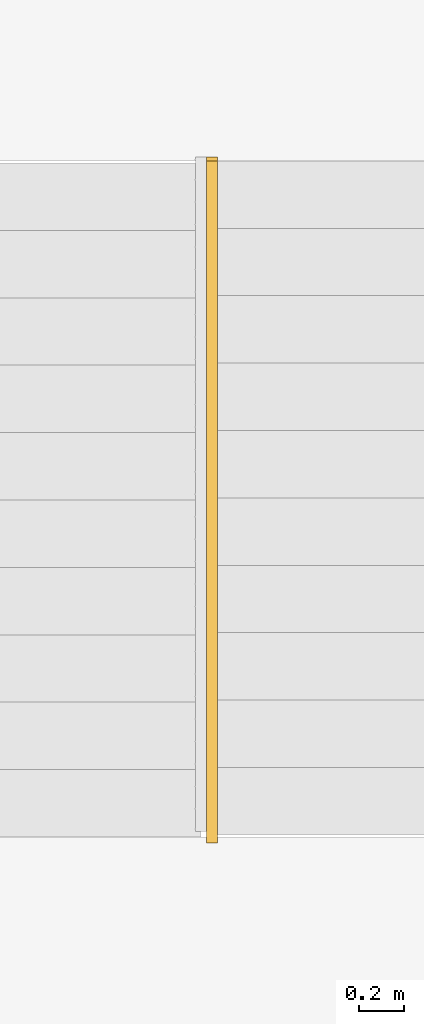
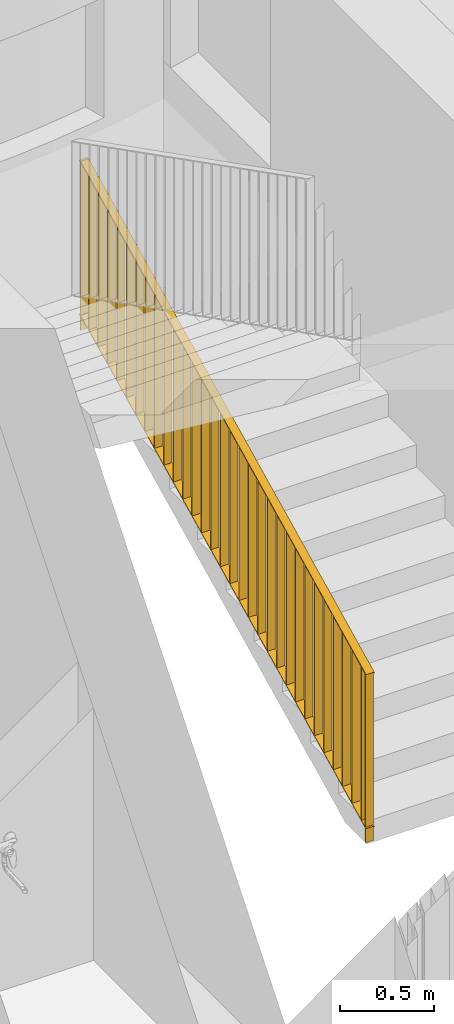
# One storey, part 19 of 48: 1 railing, 1 element without a shape of its own.
"""IFC2X3 building model written with IfcOpenShell, lengths in millimetres."""

from ifc_helpers import new_model, entity, si_unit, converted_unit, derived_unit, direction, frame, origin, place, context, subcontext, project, spatial, faceted_brep, material, element, aggregate, save


model = new_model("IFC2X3")

# Units and contexts
model_context = context("Model", 3, precision=0.01, world=origin(), true_north=direction((6.12303176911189e-17, 1.0)))
body_context = subcontext(model_context, "Body", "Model", "MODEL_VIEW")
ifc_project = project(units=[si_unit("LENGTHUNIT", "METRE", prefix="MILLI"), si_unit("AREAUNIT", "SQUARE_METRE"), si_unit("VOLUMEUNIT", "CUBIC_METRE"), converted_unit("PLANEANGLEUNIT", "DEGREE", entity("IfcRatioMeasure", 0.0174532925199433), si_unit("PLANEANGLEUNIT", "RADIAN"), dimensions=[0, 0, 0, 0, 0, 0, 0]), si_unit("MASSUNIT", "GRAM", prefix="KILO"), derived_unit("MASSDENSITYUNIT", [(si_unit("MASSUNIT", "GRAM", prefix="KILO"), 1), (si_unit("LENGTHUNIT", "METRE"), -3)]), si_unit("TIMEUNIT", "SECOND"), si_unit("FREQUENCYUNIT", "HERTZ"), si_unit("THERMODYNAMICTEMPERATUREUNIT", "DEGREE_CELSIUS"), derived_unit("THERMALTRANSMITTANCEUNIT", [(si_unit("MASSUNIT", "GRAM", prefix="KILO"), 1), (si_unit("THERMODYNAMICTEMPERATUREUNIT", "KELVIN"), -1), (si_unit("TIMEUNIT", "SECOND"), -3)]), derived_unit("VOLUMETRICFLOWRATEUNIT", [(si_unit("LENGTHUNIT", "METRE"), 3), (si_unit("TIMEUNIT", "SECOND"), -1)]), si_unit("ELECTRICCURRENTUNIT", "AMPERE"), si_unit("ELECTRICVOLTAGEUNIT", "VOLT"), si_unit("POWERUNIT", "WATT"), si_unit("FORCEUNIT", "NEWTON", prefix="KILO"), si_unit("ILLUMINANCEUNIT", "LUX"), si_unit("LUMINOUSFLUXUNIT", "LUMEN"), si_unit("LUMINOUSINTENSITYUNIT", "CANDELA"), derived_unit("USERDEFINED", [(si_unit("MASSUNIT", "GRAM", prefix="KILO"), -1), (si_unit("LENGTHUNIT", "METRE"), -2), (si_unit("TIMEUNIT", "SECOND"), 3), (si_unit("LUMINOUSFLUXUNIT", "LUMEN"), 1)]), derived_unit("LINEARVELOCITYUNIT", [(si_unit("LENGTHUNIT", "METRE"), 1), (si_unit("TIMEUNIT", "SECOND"), -1)]), si_unit("PRESSUREUNIT", "PASCAL"), derived_unit("USERDEFINED", [(si_unit("LENGTHUNIT", "METRE"), -2), (si_unit("MASSUNIT", "GRAM", prefix="KILO"), 1), (si_unit("TIMEUNIT", "SECOND"), -2)]), derived_unit("LINEARFORCEUNIT", [(si_unit("MASSUNIT", "GRAM", prefix="KILO"), 1), (si_unit("LENGTHUNIT", "METRE"), 1), (si_unit("TIMEUNIT", "SECOND"), -2), (si_unit("LENGTHUNIT", "METRE"), -1)]), derived_unit("PLANARFORCEUNIT", [(si_unit("MASSUNIT", "GRAM", prefix="KILO"), 1), (si_unit("LENGTHUNIT", "METRE"), 1), (si_unit("TIMEUNIT", "SECOND"), -2), (si_unit("LENGTHUNIT", "METRE"), -2)])], contexts=[model_context])

# Site, building, storey
site_placement = place(None, origin())
site = spatial("IfcSite", under=ifc_project, at=site_placement, Name="Default", CompositionType="ELEMENT")
building_placement = place(site_placement, origin())
building = spatial("IfcBuilding", under=site, at=building_placement, Name="SMA ARH", CompositionType="ELEMENT")
storey_placement = place(building_placement, frame((0.0, 0.0, 6600.0)))
storey = spatial("IfcBuildingStorey", under=building, at=storey_placement, Name="3 Korrus", CompositionType="ELEMENT", Elevation=6599.99999999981)

# Stair, railing
stair_placement = place(storey_placement, origin())
stair = element("IfcStair", 1, at=stair_placement, inside=storey, Name="Cast-In-Place Stair:Stair", ObjectType="Cast-In-Place Stair:Cast-In-Place Stair", ShapeType="STRAIGHT_RUN_STAIR")
ifc_material = material(Name="Metal - Stainless Steel,Polished")
railing_placement = place(stair_placement, frame((10229.5598309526, 9776.74386241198, -26.358087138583)))
railing = element("IfcRailing", 2, at=railing_placement, material=ifc_material, Name="Railing:1000mm_sisearh railing offsetiga", ObjectType="Railing:1000mm_sisearh railing offsetiga", PredefinedType="NOTDEFINED", context=body_context, shape_type="Brep", body=[
    faceted_brep([(50.4401690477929, 49.5103362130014, 120.623255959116), (50.4401690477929, 54.5103362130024, 123.077801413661), (50.4401690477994, 54.5103362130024, 1117.50781098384), (50.4401690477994, 49.5103362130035, 1115.05326552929), (0.440169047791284, 49.5103362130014, 120.623255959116), (0.440169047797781, 49.5103362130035, 1115.05326552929), (0.440169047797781, 54.5103362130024, 1117.50781098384), (0.440169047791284, 54.5103362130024, 123.077801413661)], [[[0, 1, 2, 3]], [[4, 5, 6, 7]], [[1, 0, 4, 7]], [[2, 1, 7, 6]], [[3, 2, 6, 5]], [[0, 3, 5, 4]]]),
    faceted_brep([(50.4401690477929, 149.510336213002, 169.714165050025), (50.4401690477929, 154.510336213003, 172.16871050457), (50.4401690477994, 154.510336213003, 1166.59872007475), (50.4401690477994, 149.510336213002, 1164.1441746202), (0.440169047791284, 149.510336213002, 169.714165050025), (0.440169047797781, 149.510336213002, 1164.1441746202), (0.440169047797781, 154.510336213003, 1166.59872007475), (0.440169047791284, 154.510336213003, 172.16871050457)], [[[0, 1, 2, 3]], [[4, 5, 6, 7]], [[1, 0, 4, 7]], [[2, 1, 7, 6]], [[3, 2, 6, 5]], [[0, 3, 5, 4]]]),
    faceted_brep([(50.4401690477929, 249.510336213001, 218.805074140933), (50.4401690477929, 254.510336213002, 221.259619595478), (50.4401690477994, 254.510336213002, 1215.68962916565), (50.4401690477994, 249.510336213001, 1213.23508371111), (0.440169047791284, 249.510336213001, 218.805074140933), (0.440169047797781, 249.510336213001, 1213.23508371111), (0.440169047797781, 254.510336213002, 1215.68962916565), (0.440169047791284, 254.510336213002, 221.259619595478)], [[[0, 1, 2, 3]], [[4, 5, 6, 7]], [[1, 0, 4, 7]], [[2, 1, 7, 6]], [[3, 2, 6, 5]], [[0, 3, 5, 4]]]),
    faceted_brep([(50.4401690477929, 349.510336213, 267.895983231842), (50.4401690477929, 354.510336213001, 270.350528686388), (50.4401690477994, 354.510336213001, 1264.78053825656), (50.4401690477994, 349.510336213, 1262.32599280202), (0.440169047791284, 349.510336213, 267.895983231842), (0.440169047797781, 349.510336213, 1262.32599280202), (0.440169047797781, 354.510336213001, 1264.78053825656), (0.440169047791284, 354.510336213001, 270.350528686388)], [[[0, 1, 2, 3]], [[4, 5, 6, 7]], [[1, 0, 4, 7]], [[2, 1, 7, 6]], [[3, 2, 6, 5]], [[0, 3, 5, 4]]]),
    faceted_brep([(50.4401690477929, 449.510336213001, 316.986892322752), (50.4401690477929, 454.510336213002, 319.441437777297), (50.4401690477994, 454.510336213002, 1313.87144734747), (50.4401690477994, 449.510336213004, 1311.41690189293), (0.440169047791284, 449.510336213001, 316.986892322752), (0.440169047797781, 449.510336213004, 1311.41690189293), (0.440169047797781, 454.510336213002, 1313.87144734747), (0.440169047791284, 454.510336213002, 319.441437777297)], [[[0, 1, 2, 3]], [[4, 5, 6, 7]], [[1, 0, 4, 7]], [[2, 1, 7, 6]], [[3, 2, 6, 5]], [[0, 3, 5, 4]]]),
    faceted_brep([(50.4401690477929, 549.510336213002, 366.077801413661), (50.4401690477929, 554.510336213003, 368.532346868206), (50.4401690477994, 554.510336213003, 1362.96235643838), (50.4401690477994, 549.510336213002, 1360.50781098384), (0.440169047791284, 549.510336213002, 366.077801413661), (0.440169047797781, 549.510336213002, 1360.50781098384), (0.440169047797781, 554.510336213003, 1362.96235643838), (0.440169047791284, 554.510336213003, 368.532346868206)], [[[0, 1, 2, 3]], [[4, 5, 6, 7]], [[1, 0, 4, 7]], [[2, 1, 7, 6]], [[3, 2, 6, 5]], [[0, 3, 5, 4]]]),
    faceted_brep([(50.4401690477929, 649.510336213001, 415.16871050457), (50.4401690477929, 654.510336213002, 417.623255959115), (50.4401690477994, 654.510336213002, 1412.05326552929), (50.4401690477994, 649.510336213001, 1409.59872007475), (0.440169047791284, 649.510336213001, 415.16871050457), (0.440169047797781, 649.510336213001, 1409.59872007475), (0.440169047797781, 654.510336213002, 1412.05326552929), (0.440169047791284, 654.510336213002, 417.623255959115)], [[[0, 1, 2, 3]], [[4, 5, 6, 7]], [[1, 0, 4, 7]], [[2, 1, 7, 6]], [[3, 2, 6, 5]], [[0, 3, 5, 4]]]),
    faceted_brep([(50.4401690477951, 749.510336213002, 464.259619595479), (50.4401690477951, 754.510336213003, 466.714165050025), (50.4401690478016, 754.510336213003, 1461.1441746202), (50.4401690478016, 749.510336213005, 1458.68962916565), (0.440169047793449, 749.510336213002, 464.259619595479), (0.440169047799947, 749.510336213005, 1458.68962916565), (0.440169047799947, 754.510336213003, 1461.1441746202), (0.440169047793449, 754.510336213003, 466.714165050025)], [[[0, 1, 2, 3]], [[4, 5, 6, 7]], [[1, 0, 4, 7]], [[2, 1, 7, 6]], [[3, 2, 6, 5]], [[0, 3, 5, 4]]]),
    faceted_brep([(50.4401690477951, 849.510336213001, 513.350528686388), (50.4401690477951, 854.510336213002, 515.805074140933), (50.4401690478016, 854.510336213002, 1510.23508371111), (50.4401690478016, 849.510336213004, 1507.78053825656), (0.440169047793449, 849.510336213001, 513.350528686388), (0.440169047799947, 849.510336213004, 1507.78053825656), (0.440169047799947, 854.510336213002, 1510.23508371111), (0.440169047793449, 854.510336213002, 515.805074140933)], [[[0, 1, 2, 3]], [[4, 5, 6, 7]], [[1, 0, 4, 7]], [[2, 1, 7, 6]], [[3, 2, 6, 5]], [[0, 3, 5, 4]]]),
    faceted_brep([(50.4401690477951, 949.510336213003, 562.441437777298), (50.4401690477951, 954.510336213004, 564.895983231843), (50.4401690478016, 954.510336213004, 1559.32599280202), (50.4401690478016, 949.510336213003, 1556.87144734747), (0.440169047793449, 949.510336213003, 562.441437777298), (0.440169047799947, 949.510336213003, 1556.87144734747), (0.440169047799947, 954.510336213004, 1559.32599280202), (0.440169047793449, 954.510336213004, 564.895983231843)], [[[0, 1, 2, 3]], [[4, 5, 6, 7]], [[1, 0, 4, 7]], [[2, 1, 7, 6]], [[3, 2, 6, 5]], [[0, 3, 5, 4]]]),
    faceted_brep([(50.4401690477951, 1049.510336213, 611.532346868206), (50.4401690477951, 1054.510336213, 613.986892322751), (50.4401690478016, 1054.510336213, 1608.41690189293), (50.4401690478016, 1049.510336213, 1605.96235643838), (0.440169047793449, 1049.510336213, 611.532346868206), (0.440169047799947, 1049.510336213, 1605.96235643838), (0.440169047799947, 1054.510336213, 1608.41690189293), (0.440169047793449, 1054.510336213, 613.986892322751)], [[[0, 1, 2, 3]], [[4, 5, 6, 7]], [[1, 0, 4, 7]], [[2, 1, 7, 6]], [[3, 2, 6, 5]], [[0, 3, 5, 4]]]),
    faceted_brep([(50.4401690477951, 1149.510336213, 660.623255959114), (50.4401690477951, 1154.510336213, 663.077801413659), (50.4401690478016, 1154.510336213, 1657.50781098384), (50.4401690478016, 1149.510336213, 1655.05326552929), (0.440169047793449, 1149.510336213, 660.623255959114), (0.440169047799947, 1149.510336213, 1655.05326552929), (0.440169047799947, 1154.510336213, 1657.50781098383), (0.440169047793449, 1154.510336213, 663.077801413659)], [[[0, 1, 2, 3]], [[4, 5, 6, 7]], [[1, 0, 4, 7]], [[2, 1, 7, 6]], [[3, 2, 6, 5]], [[0, 3, 5, 4]]]),
    faceted_brep([(50.4401690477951, 1249.510336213, 709.714165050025), (50.4401690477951, 1254.510336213, 712.16871050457), (50.4401690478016, 1254.510336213, 1706.59872007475), (50.4401690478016, 1249.510336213, 1704.1441746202), (0.440169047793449, 1249.510336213, 709.714165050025), (0.440169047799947, 1249.510336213, 1704.1441746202), (0.440169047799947, 1254.510336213, 1706.59872007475), (0.440169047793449, 1254.510336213, 712.16871050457)], [[[0, 1, 2, 3]], [[4, 5, 6, 7]], [[1, 0, 4, 7]], [[2, 1, 7, 6]], [[3, 2, 6, 5]], [[0, 3, 5, 4]]]),
    faceted_brep([(50.4401690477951, 1349.510336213, 758.805074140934), (50.4401690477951, 1354.510336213, 761.259619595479), (50.4401690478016, 1354.510336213, 1755.68962916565), (50.4401690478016, 1349.510336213, 1753.23508371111), (0.440169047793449, 1349.510336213, 758.805074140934), (0.440169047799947, 1349.510336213, 1753.23508371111), (0.440169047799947, 1354.510336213, 1755.68962916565), (0.440169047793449, 1354.510336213, 761.259619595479)], [[[0, 1, 2, 3]], [[4, 5, 6, 7]], [[1, 0, 4, 7]], [[2, 1, 7, 6]], [[3, 2, 6, 5]], [[0, 3, 5, 4]]]),
    faceted_brep([(50.4401690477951, 1449.510336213, 807.895983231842), (50.4401690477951, 1454.510336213, 810.350528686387), (50.4401690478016, 1454.510336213, 1804.78053825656), (50.4401690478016, 1449.510336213, 1802.32599280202), (0.440169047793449, 1449.510336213, 807.895983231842), (0.440169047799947, 1449.510336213, 1802.32599280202), (0.440169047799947, 1454.510336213, 1804.78053825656), (0.440169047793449, 1454.510336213, 810.350528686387)], [[[0, 1, 2, 3]], [[4, 5, 6, 7]], [[1, 0, 4, 7]], [[2, 1, 7, 6]], [[3, 2, 6, 5]], [[0, 3, 5, 4]]]),
    faceted_brep([(50.4401690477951, 1549.510336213, 856.986892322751), (50.4401690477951, 1554.510336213, 859.441437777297), (50.4401690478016, 1554.510336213, 1853.87144734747), (50.4401690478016, 1549.510336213, 1851.41690189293), (0.440169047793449, 1549.510336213, 856.986892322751), (0.440169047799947, 1549.510336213, 1851.41690189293), (0.440169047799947, 1554.510336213, 1853.87144734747), (0.440169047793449, 1554.510336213, 859.441437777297)], [[[0, 1, 2, 3]], [[4, 5, 6, 7]], [[1, 0, 4, 7]], [[2, 1, 7, 6]], [[3, 2, 6, 5]], [[0, 3, 5, 4]]]),
    faceted_brep([(50.4401690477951, 1649.510336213, 906.077801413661), (50.4401690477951, 1654.510336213, 908.532346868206), (50.4401690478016, 1654.510336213, 1902.96235643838), (50.4401690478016, 1649.510336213, 1900.50781098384), (0.440169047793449, 1649.510336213, 906.077801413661), (0.440169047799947, 1649.510336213, 1900.50781098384), (0.440169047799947, 1654.510336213, 1902.96235643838), (0.440169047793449, 1654.510336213, 908.532346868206)], [[[0, 1, 2, 3]], [[4, 5, 6, 7]], [[1, 0, 4, 7]], [[2, 1, 7, 6]], [[3, 2, 6, 5]], [[0, 3, 5, 4]]]),
    faceted_brep([(50.4401690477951, 1749.510336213, 955.16871050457), (50.4401690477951, 1754.510336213, 957.623255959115), (50.4401690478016, 1754.510336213, 1952.05326552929), (50.4401690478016, 1749.510336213, 1949.59872007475), (0.440169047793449, 1749.510336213, 955.16871050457), (0.440169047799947, 1749.510336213, 1949.59872007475), (0.440169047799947, 1754.510336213, 1952.05326552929), (0.440169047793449, 1754.510336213, 957.623255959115)], [[[0, 1, 2, 3]], [[4, 5, 6, 7]], [[1, 0, 4, 7]], [[2, 1, 7, 6]], [[3, 2, 6, 5]], [[0, 3, 5, 4]]]),
    faceted_brep([(50.4401690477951, 1849.510336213, 1004.25961959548), (50.4401690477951, 1854.510336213, 1006.71416505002), (50.4401690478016, 1854.510336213, 2001.1441746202), (50.4401690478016, 1849.510336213, 1998.68962916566), (0.440169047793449, 1849.510336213, 1004.25961959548), (0.440169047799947, 1849.510336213, 1998.68962916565), (0.440169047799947, 1854.510336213, 2001.1441746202), (0.440169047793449, 1854.510336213, 1006.71416505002)], [[[0, 1, 2, 3]], [[4, 5, 6, 7]], [[1, 0, 4, 7]], [[2, 1, 7, 6]], [[3, 2, 6, 5]], [[0, 3, 5, 4]]]),
    faceted_brep([(50.4401690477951, 1949.510336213, 1053.35052868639), (50.4401690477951, 1954.510336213, 1055.80507414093), (50.4401690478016, 1954.510336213, 2050.23508371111), (50.4401690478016, 1949.510336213, 2047.78053825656), (0.440169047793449, 1949.510336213, 1053.35052868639), (0.440169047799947, 1949.510336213, 2047.78053825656), (0.440169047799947, 1954.510336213, 2050.23508371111), (0.440169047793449, 1954.510336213, 1055.80507414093)], [[[0, 1, 2, 3]], [[4, 5, 6, 7]], [[1, 0, 4, 7]], [[2, 1, 7, 6]], [[3, 2, 6, 5]], [[0, 3, 5, 4]]]),
    faceted_brep([(50.4401690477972, 2049.510336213, 1102.4414377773), (50.4401690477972, 2054.510336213, 1104.89598323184), (50.4401690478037, 2054.510336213, 2099.32599280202), (50.4401690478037, 2049.510336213, 2096.87144734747), (0.440169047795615, 2049.510336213, 1102.4414377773), (0.440169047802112, 2049.510336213, 2096.87144734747), (0.440169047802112, 2054.510336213, 2099.32599280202), (0.440169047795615, 2054.510336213, 1104.89598323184)], [[[0, 1, 2, 3]], [[4, 5, 6, 7]], [[1, 0, 4, 7]], [[2, 1, 7, 6]], [[3, 2, 6, 5]], [[0, 3, 5, 4]]]),
    faceted_brep([(50.4401690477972, 2149.510336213, 1151.53234686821), (50.4401690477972, 2154.510336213, 1153.98689232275), (50.4401690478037, 2154.510336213, 2148.41690189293), (50.4401690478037, 2149.510336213, 2145.96235643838), (0.440169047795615, 2149.510336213, 1151.53234686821), (0.440169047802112, 2149.510336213, 2145.96235643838), (0.440169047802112, 2154.510336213, 2148.41690189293), (0.440169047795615, 2154.510336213, 1153.98689232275)], [[[0, 1, 2, 3]], [[4, 5, 6, 7]], [[1, 0, 4, 7]], [[2, 1, 7, 6]], [[3, 2, 6, 5]], [[0, 3, 5, 4]]]),
    faceted_brep([(50.4401690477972, 2249.510336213, 1200.62325595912), (50.4401690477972, 2254.510336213, 1203.07780141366), (50.4401690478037, 2254.510336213, 2197.50781098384), (50.4401690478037, 2249.510336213, 2195.05326552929), (0.440169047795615, 2249.510336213, 1200.62325595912), (0.440169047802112, 2249.510336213, 2195.05326552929), (0.440169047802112, 2254.510336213, 2197.50781098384), (0.440169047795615, 2254.510336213, 1203.07780141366)], [[[0, 1, 2, 3]], [[4, 5, 6, 7]], [[1, 0, 4, 7]], [[2, 1, 7, 6]], [[3, 2, 6, 5]], [[0, 3, 5, 4]]]),
    faceted_brep([(50.4401690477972, 2349.510336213, 1249.71416505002), (50.4401690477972, 2354.510336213, 1252.16871050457), (50.4401690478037, 2354.510336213, 2246.59872007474), (50.4401690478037, 2349.510336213, 2244.1441746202), (0.440169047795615, 2349.510336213, 1249.71416505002), (0.440169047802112, 2349.510336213, 2244.1441746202), (0.440169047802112, 2354.510336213, 2246.59872007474), (0.440169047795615, 2354.510336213, 1252.16871050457)], [[[0, 1, 2, 3]], [[4, 5, 6, 7]], [[1, 0, 4, 7]], [[2, 1, 7, 6]], [[3, 2, 6, 5]], [[0, 3, 5, 4]]]),
    faceted_brep([(50.4401690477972, 2449.510336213, 1298.80507414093), (50.4401690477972, 2454.510336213, 1301.25961959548), (50.4401690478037, 2454.510336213, 2295.68962916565), (50.4401690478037, 2449.510336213, 2293.23508371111), (0.440169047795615, 2449.510336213, 1298.80507414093), (0.440169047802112, 2449.510336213, 2293.23508371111), (0.440169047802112, 2454.510336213, 2295.68962916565), (0.440169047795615, 2454.510336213, 1301.25961959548)], [[[0, 1, 2, 3]], [[4, 5, 6, 7]], [[1, 0, 4, 7]], [[2, 1, 7, 6]], [[3, 2, 6, 5]], [[0, 3, 5, 4]]]),
    faceted_brep([(50.4401690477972, 2549.510336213, 1347.89598323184), (50.4401690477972, 2554.510336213, 1350.35052868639), (50.4401690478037, 2554.510336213, 2344.78053825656), (50.4401690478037, 2549.510336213, 2342.32599280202), (0.440169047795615, 2549.510336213, 1347.89598323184), (0.440169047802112, 2549.510336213, 2342.32599280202), (0.440169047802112, 2554.510336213, 2344.78053825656), (0.440169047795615, 2554.510336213, 1350.35052868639)], [[[0, 1, 2, 3]], [[4, 5, 6, 7]], [[1, 0, 4, 7]], [[2, 1, 7, 6]], [[3, 2, 6, 5]], [[0, 3, 5, 4]]]),
    faceted_brep([(50.4401690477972, 2649.510336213, 1396.98689232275), (50.4401690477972, 2654.510336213, 1399.4414377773), (50.4401690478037, 2654.510336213, 2393.87144734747), (50.4401690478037, 2649.510336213, 2391.41690189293), (0.440169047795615, 2649.510336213, 1396.98689232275), (0.440169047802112, 2649.510336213, 2391.41690189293), (0.440169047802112, 2654.510336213, 2393.87144734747), (0.440169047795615, 2654.510336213, 1399.4414377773)], [[[0, 1, 2, 3]], [[4, 5, 6, 7]], [[1, 0, 4, 7]], [[2, 1, 7, 6]], [[3, 2, 6, 5]], [[0, 3, 5, 4]]]),
    faceted_brep([(50.4401690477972, 2749.510336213, 1446.07780141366), (50.4401690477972, 2754.510336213, 1448.53234686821), (50.4401690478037, 2754.510336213, 2442.96235643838), (50.4401690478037, 2749.510336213, 2440.50781098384), (0.440169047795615, 2749.510336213, 1446.07780141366), (0.440169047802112, 2749.510336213, 2440.50781098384), (0.440169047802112, 2754.510336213, 2442.96235643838), (0.440169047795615, 2754.510336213, 1448.53234686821)], [[[0, 1, 2, 3]], [[4, 5, 6, 7]], [[1, 0, 4, 7]], [[2, 1, 7, 6]], [[3, 2, 6, 5]], [[0, 3, 5, 4]]]),
    faceted_brep([(50.4401690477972, 2849.510336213, 1495.16871050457), (50.4401690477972, 2854.510336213, 1497.62325595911), (50.4401690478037, 2854.510336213, 2492.05326552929), (50.4401690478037, 2849.510336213, 2489.59872007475), (0.440169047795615, 2849.510336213, 1495.16871050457), (0.440169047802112, 2849.510336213, 2489.59872007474), (0.440169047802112, 2854.510336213, 2492.05326552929), (0.440169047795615, 2854.510336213, 1497.62325595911)], [[[0, 1, 2, 3]], [[4, 5, 6, 7]], [[1, 0, 4, 7]], [[2, 1, 7, 6]], [[3, 2, 6, 5]], [[0, 3, 5, 4]]]),
    faceted_brep([(50.4401690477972, 2949.510336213, 1544.25961959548), (50.4401690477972, 2954.510336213, 1546.71416505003), (50.4401690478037, 2954.510336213, 2541.1441746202), (50.4401690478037, 2949.510336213, 2538.68962916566), (0.440169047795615, 2949.510336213, 1544.25961959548), (0.440169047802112, 2949.510336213, 2538.68962916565), (0.440169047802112, 2954.510336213, 2541.1441746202), (0.440169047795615, 2954.510336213, 1546.71416505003)], [[[0, 1, 2, 3]], [[4, 5, 6, 7]], [[1, 0, 4, 7]], [[2, 1, 7, 6]], [[3, 2, 6, 5]], [[0, 3, 5, 4]]]),
    faceted_brep([(50.4401690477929, 7.4999999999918, 0.0), (50.4401690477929, 12.4999999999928, 2.45454545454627), (50.4401690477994, 12.4999999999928, 1096.88455502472), (50.4401690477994, 7.4999999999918, 1094.43000957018), (0.440169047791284, 7.4999999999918, 0.0), (0.440169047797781, 7.4999999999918, 1094.43000957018), (0.440169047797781, 12.4999999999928, 1096.88455502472), (0.440169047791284, 12.4999999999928, 2.45454545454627)], [[[0, 1, 2, 3]], [[4, 5, 6, 7]], [[1, 0, 4, 7]], [[2, 1, 7, 6]], [[3, 2, 6, 5]], [[0, 3, 5, 4]]]),
    faceted_brep([(50.4401690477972, 3039.510336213, 1486.35808713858), (50.4401690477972, 3044.510336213, 1486.35808713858), (50.4401690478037, 3044.510336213, 2581.35808713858), (50.4401690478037, 3039.510336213, 2581.35808713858), (0.440169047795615, 3039.510336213, 1486.35808713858), (0.440169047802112, 3039.510336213, 2581.35808713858), (0.440169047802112, 3044.510336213, 2581.35808713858), (0.440169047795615, 3044.510336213, 1486.35808713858)], [[[0, 1, 2, 3]], [[4, 5, 6, 7]], [[1, 0, 4, 7]], [[2, 1, 7, 6]], [[3, 2, 6, 5]], [[0, 3, 5, 4]]]),
    faceted_brep([(50.0, 3052.01033621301, 1586.35808713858), (50.0, 3052.01033621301, 1581.35808713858), (0.0, 3052.01033621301, 1581.35808713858), (0.0, 3052.01033621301, 1586.35808713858), (50.0, 0.0, 96.3181818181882), (0.0, 0.0, 96.3181818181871), (0.0, 0.0, 90.7481913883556), (50.0, 0.0, 90.7481913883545), (50.0, 3035.26647380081, 1586.35808713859), (50.0, 3036.42756541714, 1581.35808713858), (0.0, 3036.42756541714, 1581.35808713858), (0.0, 3035.26647380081, 1586.35808713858)], [[[0, 1, 2, 3]], [[4, 5, 6, 7]], [[1, 0, 8, 9]], [[2, 1, 9, 10]], [[3, 2, 10, 11]], [[0, 3, 11, 8]], [[9, 8, 4, 7]], [[10, 9, 7, 6]], [[11, 10, 6, 5]], [[8, 11, 5, 4]]]),
    faceted_brep([(50.0, 0.0, 1096.31818181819), (0.0, 0.0, 1096.31818181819), (0.0, 0.0, 1090.74819138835), (50.0, 0.0, 1090.74819138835), (50.0, 3035.26647380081, 2586.35808713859), (0.0, 3035.26647380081, 2586.35808713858), (0.0, 3036.42756541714, 2581.35808713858), (50.0, 3036.42756541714, 2581.35808713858), (50.0, 3052.01033621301, 2586.35808713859), (50.0, 3052.01033621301, 2581.35808713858), (0.0, 3052.01033621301, 2581.35808713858), (0.0, 3052.01033621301, 2586.35808713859)], [[[0, 1, 2, 3]], [[1, 0, 4, 5]], [[2, 1, 5, 6]], [[3, 2, 6, 7]], [[0, 3, 7, 4]], [[8, 9, 10, 11]], [[5, 4, 8, 11]], [[6, 5, 11, 10]], [[7, 6, 10, 9]], [[4, 7, 9, 8]]]),
])
aggregate(stair, [railing])

save(model, "model.ifc")
